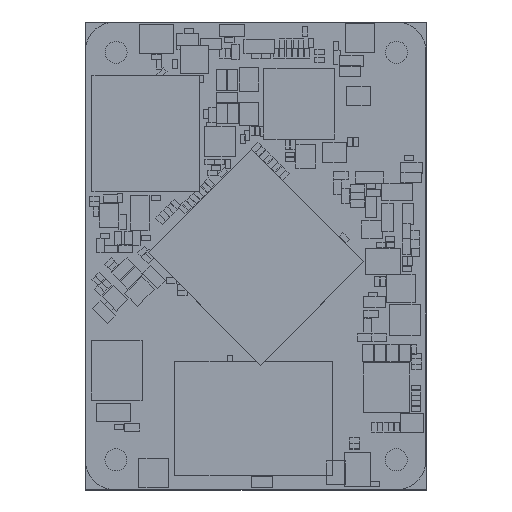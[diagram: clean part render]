
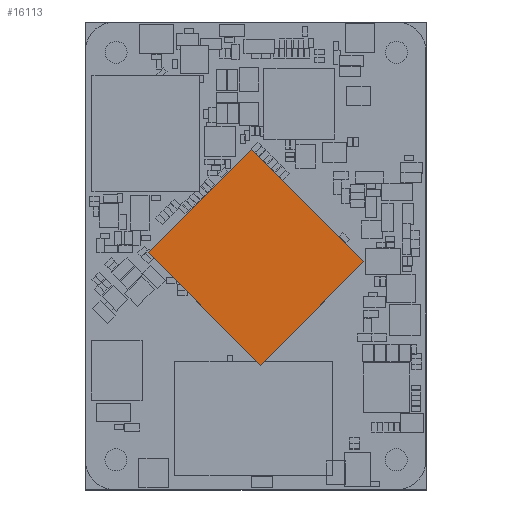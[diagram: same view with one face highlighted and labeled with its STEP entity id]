
A CAD part, top view. The second image highlights one B-rep face of the part: STEP entity #16113.
In plain terms, the highlighted planar face has unit normal (0, 0, 1).
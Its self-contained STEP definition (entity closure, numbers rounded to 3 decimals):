
#15799 = VERTEX_POINT('',#15800);
#15800 = CARTESIAN_POINT('',(-9.91,-8.25,1.1));
#15807 = PLANE('',#15808);
#15808 = AXIS2_PLACEMENT_3D('',#15809,#15810,#15811);
#15809 = CARTESIAN_POINT('',(-9.91,-8.25,0.));
#15810 = DIRECTION('',(0.,1.,0.));
#15811 = DIRECTION('',(1.,0.,0.));
#15819 = PLANE('',#15820);
#15820 = AXIS2_PLACEMENT_3D('',#15821,#15822,#15823);
#15821 = CARTESIAN_POINT('',(-9.91,8.957,0.));
#15822 = DIRECTION('',(1.,0.,-0.));
#15823 = DIRECTION('',(0.,-1.,0.));
#15831 = EDGE_CURVE('',#15799,#15832,#15834,.T.);
#15832 = VERTEX_POINT('',#15833);
#15833 = CARTESIAN_POINT('',(8.8,-8.25,1.1));
#15834 = SURFACE_CURVE('',#15835,(#15839,#15846),.PCURVE_S1.);
#15835 = LINE('',#15836,#15837);
#15836 = CARTESIAN_POINT('',(-9.91,-8.25,1.1));
#15837 = VECTOR('',#15838,1.);
#15838 = DIRECTION('',(1.,0.,0.));
#15839 = PCURVE('',#15807,#15840);
#15840 = DEFINITIONAL_REPRESENTATION('',(#15841),#15845);
#15841 = LINE('',#15842,#15843);
#15842 = CARTESIAN_POINT('',(0.,-1.1));
#15843 = VECTOR('',#15844,1.);
#15844 = DIRECTION('',(1.,0.));
#15845 = ( GEOMETRIC_REPRESENTATION_CONTEXT(2) 
PARAMETRIC_REPRESENTATION_CONTEXT() REPRESENTATION_CONTEXT('2D SPACE',''
  ) );
#15846 = PCURVE('',#15847,#15852);
#15847 = PLANE('',#15848);
#15848 = AXIS2_PLACEMENT_3D('',#15849,#15850,#15851);
#15849 = CARTESIAN_POINT('',(-0.555,0.353,1.1));
#15850 = DIRECTION('',(0.,0.,1.));
#15851 = DIRECTION('',(1.,0.,-0.));
#15852 = DEFINITIONAL_REPRESENTATION('',(#15853),#15857);
#15853 = LINE('',#15854,#15855);
#15854 = CARTESIAN_POINT('',(-9.355,-8.603));
#15855 = VECTOR('',#15856,1.);
#15856 = DIRECTION('',(1.,0.));
#15857 = ( GEOMETRIC_REPRESENTATION_CONTEXT(2) 
PARAMETRIC_REPRESENTATION_CONTEXT() REPRESENTATION_CONTEXT('2D SPACE',''
  ) );
#15875 = PLANE('',#15876);
#15876 = AXIS2_PLACEMENT_3D('',#15877,#15878,#15879);
#15877 = CARTESIAN_POINT('',(8.8,-8.25,0.));
#15878 = DIRECTION('',(-1.,0.,0.));
#15879 = DIRECTION('',(0.,1.,0.));
#15917 = EDGE_CURVE('',#15832,#15918,#15920,.T.);
#15918 = VERTEX_POINT('',#15919);
#15919 = CARTESIAN_POINT('',(8.8,8.957,1.1));
#15920 = SURFACE_CURVE('',#15921,(#15925,#15932),.PCURVE_S1.);
#15921 = LINE('',#15922,#15923);
#15922 = CARTESIAN_POINT('',(8.8,-8.25,1.1));
#15923 = VECTOR('',#15924,1.);
#15924 = DIRECTION('',(0.,1.,0.));
#15925 = PCURVE('',#15875,#15926);
#15926 = DEFINITIONAL_REPRESENTATION('',(#15927),#15931);
#15927 = LINE('',#15928,#15929);
#15928 = CARTESIAN_POINT('',(0.,-1.1));
#15929 = VECTOR('',#15930,1.);
#15930 = DIRECTION('',(1.,0.));
#15931 = ( GEOMETRIC_REPRESENTATION_CONTEXT(2) 
PARAMETRIC_REPRESENTATION_CONTEXT() REPRESENTATION_CONTEXT('2D SPACE',''
  ) );
#15932 = PCURVE('',#15847,#15933);
#15933 = DEFINITIONAL_REPRESENTATION('',(#15934),#15938);
#15934 = LINE('',#15935,#15936);
#15935 = CARTESIAN_POINT('',(9.355,-8.603));
#15936 = VECTOR('',#15937,1.);
#15937 = DIRECTION('',(0.,1.));
#15938 = ( GEOMETRIC_REPRESENTATION_CONTEXT(2) 
PARAMETRIC_REPRESENTATION_CONTEXT() REPRESENTATION_CONTEXT('2D SPACE',''
  ) );
#15956 = PLANE('',#15957);
#15957 = AXIS2_PLACEMENT_3D('',#15958,#15959,#15960);
#15958 = CARTESIAN_POINT('',(8.8,8.957,0.));
#15959 = DIRECTION('',(0.,-1.,0.));
#15960 = DIRECTION('',(-1.,0.,0.));
#15993 = EDGE_CURVE('',#15918,#15994,#15996,.T.);
#15994 = VERTEX_POINT('',#15995);
#15995 = CARTESIAN_POINT('',(-9.91,8.957,1.1));
#15996 = SURFACE_CURVE('',#15997,(#16001,#16008),.PCURVE_S1.);
#15997 = LINE('',#15998,#15999);
#15998 = CARTESIAN_POINT('',(8.8,8.957,1.1));
#15999 = VECTOR('',#16000,1.);
#16000 = DIRECTION('',(-1.,0.,0.));
#16001 = PCURVE('',#15956,#16002);
#16002 = DEFINITIONAL_REPRESENTATION('',(#16003),#16007);
#16003 = LINE('',#16004,#16005);
#16004 = CARTESIAN_POINT('',(0.,-1.1));
#16005 = VECTOR('',#16006,1.);
#16006 = DIRECTION('',(1.,0.));
#16007 = ( GEOMETRIC_REPRESENTATION_CONTEXT(2) 
PARAMETRIC_REPRESENTATION_CONTEXT() REPRESENTATION_CONTEXT('2D SPACE',''
  ) );
#16008 = PCURVE('',#15847,#16009);
#16009 = DEFINITIONAL_REPRESENTATION('',(#16010),#16014);
#16010 = LINE('',#16011,#16012);
#16011 = CARTESIAN_POINT('',(9.355,8.603));
#16012 = VECTOR('',#16013,1.);
#16013 = DIRECTION('',(-1.,0.));
#16014 = ( GEOMETRIC_REPRESENTATION_CONTEXT(2) 
PARAMETRIC_REPRESENTATION_CONTEXT() REPRESENTATION_CONTEXT('2D SPACE',''
  ) );
#16064 = EDGE_CURVE('',#15994,#15799,#16065,.T.);
#16065 = SURFACE_CURVE('',#16066,(#16070,#16077),.PCURVE_S1.);
#16066 = LINE('',#16067,#16068);
#16067 = CARTESIAN_POINT('',(-9.91,8.957,1.1));
#16068 = VECTOR('',#16069,1.);
#16069 = DIRECTION('',(0.,-1.,0.));
#16070 = PCURVE('',#15819,#16071);
#16071 = DEFINITIONAL_REPRESENTATION('',(#16072),#16076);
#16072 = LINE('',#16073,#16074);
#16073 = CARTESIAN_POINT('',(0.,-1.1));
#16074 = VECTOR('',#16075,1.);
#16075 = DIRECTION('',(1.,0.));
#16076 = ( GEOMETRIC_REPRESENTATION_CONTEXT(2) 
PARAMETRIC_REPRESENTATION_CONTEXT() REPRESENTATION_CONTEXT('2D SPACE',''
  ) );
#16077 = PCURVE('',#15847,#16078);
#16078 = DEFINITIONAL_REPRESENTATION('',(#16079),#16083);
#16079 = LINE('',#16080,#16081);
#16080 = CARTESIAN_POINT('',(-9.355,8.603));
#16081 = VECTOR('',#16082,1.);
#16082 = DIRECTION('',(0.,-1.));
#16083 = ( GEOMETRIC_REPRESENTATION_CONTEXT(2) 
PARAMETRIC_REPRESENTATION_CONTEXT() REPRESENTATION_CONTEXT('2D SPACE',''
  ) );
#16113 = ADVANCED_FACE('',(#16114),#15847,.T.);
#16114 = FACE_BOUND('',#16115,.T.);
#16115 = EDGE_LOOP('',(#16116,#16117,#16118,#16119));
#16116 = ORIENTED_EDGE('',*,*,#15831,.T.);
#16117 = ORIENTED_EDGE('',*,*,#15917,.T.);
#16118 = ORIENTED_EDGE('',*,*,#15993,.T.);
#16119 = ORIENTED_EDGE('',*,*,#16064,.T.);
